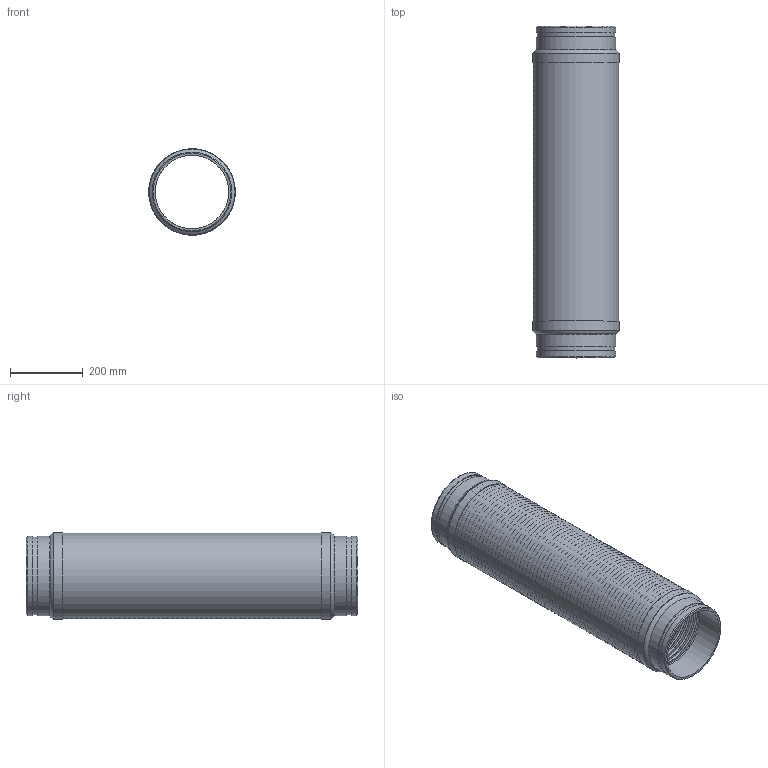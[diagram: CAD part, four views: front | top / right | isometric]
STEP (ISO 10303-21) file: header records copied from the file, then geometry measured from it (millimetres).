
FILE_DESCRIPTION((''),'2;1');
FILE_NAME('C:\2012_Work\Designs\GWN\GWN-8x36.stp','2013-08-13T13:48:22',('KShiels'),(''),'Autodesk Inventor 2012','Autodesk Inventor 2012','');
FILE_SCHEMA(('AUTOMOTIVE_DESIGN { 1 0 10303 214 1 1 1 1 }'));
Length unit declared in the file: inch
Products named in the file (6): GWN-8x36; GWN-8x36_Welds; A-30115-4_8in_GN-BRAID; A-30115-4_8in_GN-BELLOWS; A-30115-4_8in_GN-BRAID-COLLAR; A-30115-4_8in_GN-GROOVED_NIPPLE
Assembly tree (7 placements, depth 2):
  GWN-8x36
    GWN-8x36_Welds
    A-30115-4_8in_GN-BRAID
    A-30115-4_8in_GN-BELLOWS
    A-30115-4_8in_GN-BRAID-COLLAR  x2
    A-30115-4_8in_GN-GROOVED_NIPPLE  x2
Bounding box: 238.35 x 914.4 x 238.35 mm (x, y, z)
Volume: 1990706 mm3; surface area: 4536298 mm2
Topology: 8 solids, 8 shells, 500 faces, 758 edges, 506 vertices
Faces by surface type: plane 248, torus 232, cylinder 16, bspline 2, cone 2
Full cylindrical faces by diameter (mm): 202.717 x2, 214.401 x2, 219.075 x6, 234.95 x1, 235.966 x3, 238.347 x2
Entity records: 10531 total; most frequent: CARTESIAN_POINT 2024, DIRECTION 1962, ORIENTED_EDGE 986, AXIS2_PLACEMENT_3D 981, EDGE_LOOP 972, EDGE_CURVE 493, VERTEX_POINT 491, FACE_OUTER_BOUND 487
